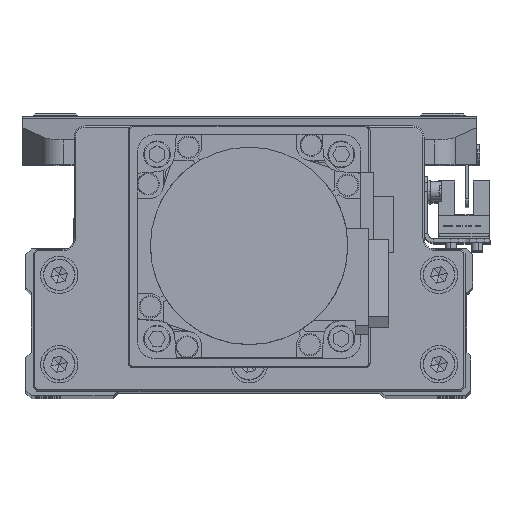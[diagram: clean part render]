
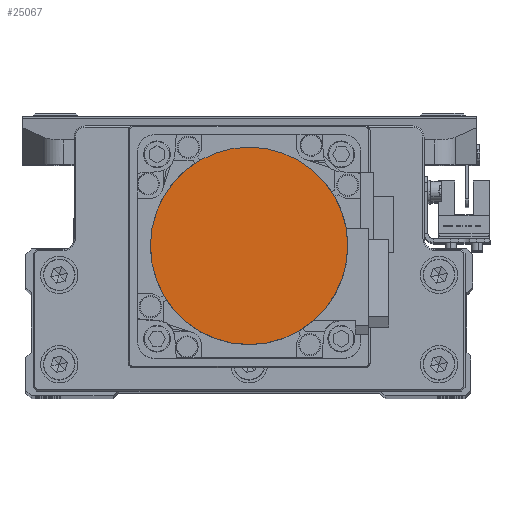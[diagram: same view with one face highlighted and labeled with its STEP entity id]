
A CAD part, top view. The second image highlights one B-rep face of the part: STEP entity #25067.
In plain terms, the highlighted planar face has unit normal (0, 0, 1) as drawn and (0, 0, -1) by its records, which use the part's own axes.
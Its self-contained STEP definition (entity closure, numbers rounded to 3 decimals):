
#918 = AXIS2_PLACEMENT_3D ( 'NONE', #15324, #28143, #40980 ) ;
#2785 = DIRECTION ( 'NONE',  ( 1., 0., 0. ) ) ;
#9490 = AXIS2_PLACEMENT_3D ( 'NONE', #40383, #11603, #24403 ) ;
#11603 = DIRECTION ( 'NONE',  ( 0., 0., 1. ) ) ;
#11967 = EDGE_LOOP ( 'NONE', ( #26087, #34221 ) ) ;
#14264 = CARTESIAN_POINT ( 'NONE',  ( 26.5, 0., -109.7 ) ) ;
#14734 = FACE_OUTER_BOUND ( 'NONE', #11967, .T. ) ;
#15324 = CARTESIAN_POINT ( 'NONE',  ( 0., 0., -109.7 ) ) ;
#15748 = CIRCLE ( 'NONE', #39255, 26.5 ) ;
#18526 = EDGE_CURVE ( 'NONE', #26049, #19712, #18992, .T. ) ;
#18723 = CARTESIAN_POINT ( 'NONE',  ( 0., 0., -109.7 ) ) ;
#18969 = CARTESIAN_POINT ( 'NONE',  ( -26.5, 0., -109.7 ) ) ;
#18992 = CIRCLE ( 'NONE', #918, 26.5 ) ;
#19712 = VERTEX_POINT ( 'NONE', #14264 ) ;
#24403 = DIRECTION ( 'NONE',  ( 1., 0., 0. ) ) ;
#25067 = ADVANCED_FACE ( 'NONE', ( #14734 ), #27559, .F. ) ;
#26049 = VERTEX_POINT ( 'NONE', #18969 ) ;
#26087 = ORIENTED_EDGE ( 'NONE', *, *, #18526, .F. ) ;
#27559 = PLANE ( 'NONE',  #9490 ) ;
#28143 = DIRECTION ( 'NONE',  ( 0., 0., 1. ) ) ;
#31535 = DIRECTION ( 'NONE',  ( 0., 0., 1. ) ) ;
#34221 = ORIENTED_EDGE ( 'NONE', *, *, #37781, .F. ) ;
#37781 = EDGE_CURVE ( 'NONE', #19712, #26049, #15748, .T. ) ;
#39255 = AXIS2_PLACEMENT_3D ( 'NONE', #18723, #31535, #2785 ) ;
#40383 = CARTESIAN_POINT ( 'NONE',  ( 0., 0., -109.7 ) ) ;
#40980 = DIRECTION ( 'NONE',  ( -1., 0., 0. ) ) ;
